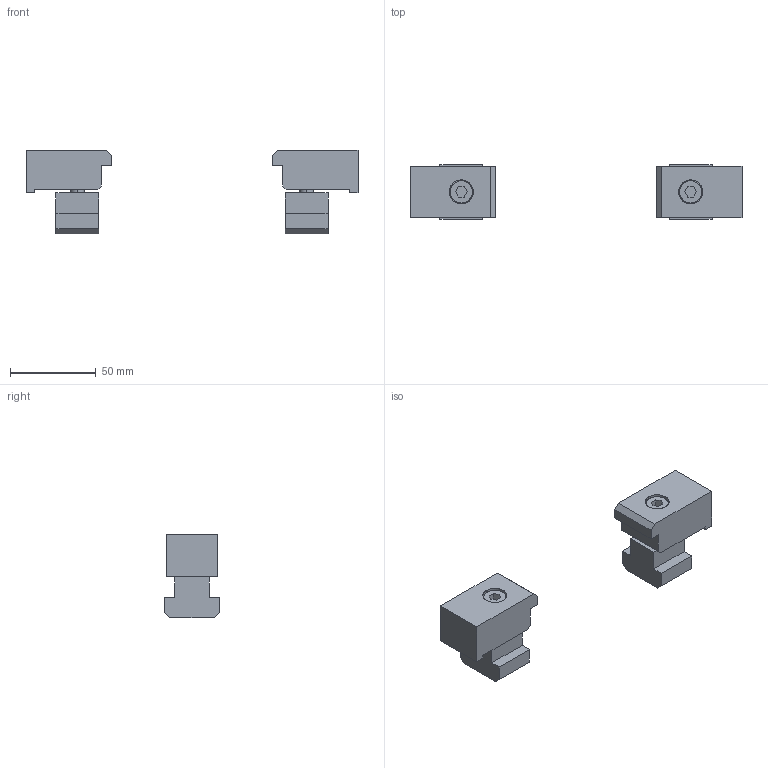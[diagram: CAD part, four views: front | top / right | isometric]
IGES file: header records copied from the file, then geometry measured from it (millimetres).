
Start section: SolidWorks IGES file using analytic representation for surfaces
Global section: file name: X:\14_SW2023(ver2023)\01_2025-01新製品(WHS)\OML\@データ\mvac110cs20\MVAC110CS20.igs; native system: SolidWorks 2023; preprocessor: SolidWorks 2023; author: ImaoCorp; date: 250108.111936; units: millimetre
Bounding box: 194 x 32 x 49 mm (x, y, z)
Surface area: 24970.4 mm2 (no closed solid volume)
Topology: 0 solids, 0 shells, 84 faces, 888 edges, 888 vertices
Faces by surface type: bspline 68, revolution 16
